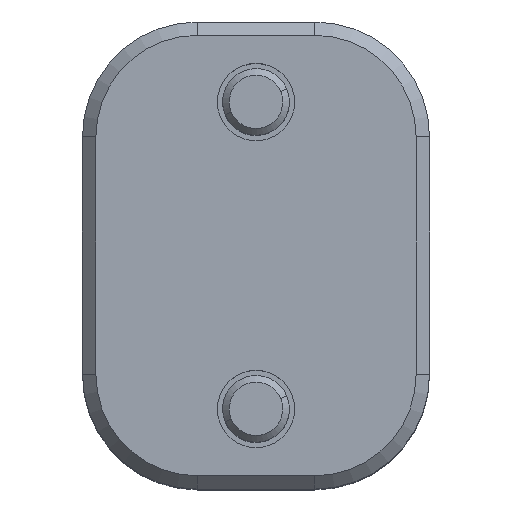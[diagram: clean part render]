
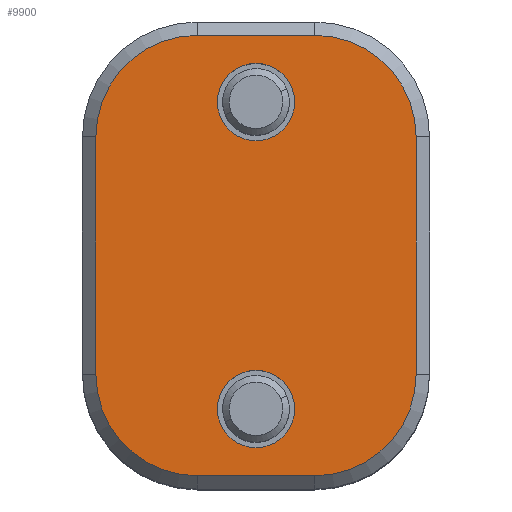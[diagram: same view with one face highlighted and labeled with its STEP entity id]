
A CAD part, top view. The second image highlights one B-rep face of the part: STEP entity #9900.
In plain terms, the highlighted planar face has unit normal (0, 0, 1).
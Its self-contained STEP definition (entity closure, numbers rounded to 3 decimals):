
#77 = ORIENTED_EDGE ( 'NONE', *, *, #4296, .T. ) ;
#110 = CARTESIAN_POINT ( 'NONE',  ( 4.4, 16.5, 15. ) ) ;
#122 = EDGE_LOOP ( 'NONE', ( #1868, #11519 ) ) ;
#213 = EDGE_CURVE ( 'NONE', #8051, #11638, #8648, .T. ) ;
#377 = DIRECTION ( 'NONE',  ( 0., 0., 1. ) ) ;
#816 = DIRECTION ( 'NONE',  ( 0., 0., 1. ) ) ;
#867 = VERTEX_POINT ( 'NONE', #10198 ) ;
#948 = ORIENTED_EDGE ( 'NONE', *, *, #213, .T. ) ;
#965 = CARTESIAN_POINT ( 'NONE',  ( 12., -17.5, 15. ) ) ;
#1757 = CARTESIAN_POINT ( 'NONE',  ( 0., 8.6, 15. ) ) ;
#1854 = CIRCLE ( 'NONE', #8111, 2.9 ) ;
#1868 = ORIENTED_EDGE ( 'NONE', *, *, #4483, .T. ) ;
#1983 = EDGE_CURVE ( 'NONE', #10479, #2769, #11390, .T. ) ;
#2074 = LINE ( 'NONE', #10593, #6638 ) ;
#2131 = AXIS2_PLACEMENT_3D ( 'NONE', #9026, #3216, #10985 ) ;
#2219 = CIRCLE ( 'NONE', #4018, 7.6 ) ;
#2274 = VERTEX_POINT ( 'NONE', #12109 ) ;
#2454 = AXIS2_PLACEMENT_3D ( 'NONE', #8600, #816, #3814 ) ;
#2489 = AXIS2_PLACEMENT_3D ( 'NONE', #4166, #377, #4252 ) ;
#2545 = ORIENTED_EDGE ( 'NONE', *, *, #1983, .T. ) ;
#2769 = VERTEX_POINT ( 'NONE', #8534 ) ;
#3216 = DIRECTION ( 'NONE',  ( 0., 0., -1. ) ) ;
#3452 = DIRECTION ( 'NONE',  ( 0., 1., 0. ) ) ;
#3486 = CIRCLE ( 'NONE', #10030, 2.9 ) ;
#3758 = AXIS2_PLACEMENT_3D ( 'NONE', #5896, #7827, #11580 ) ;
#3814 = DIRECTION ( 'NONE',  ( -1., 0., 0. ) ) ;
#3915 = DIRECTION ( 'NONE',  ( 0., 1., 0. ) ) ;
#4018 = AXIS2_PLACEMENT_3D ( 'NONE', #10957, #9035, #9134 ) ;
#4114 = ORIENTED_EDGE ( 'NONE', *, *, #12096, .T. ) ;
#4166 = CARTESIAN_POINT ( 'NONE',  ( -4.4, -8.9, 15. ) ) ;
#4252 = DIRECTION ( 'NONE',  ( -1., 0., 0. ) ) ;
#4296 = EDGE_CURVE ( 'NONE', #12242, #867, #11585, .T. ) ;
#4315 = CARTESIAN_POINT ( 'NONE',  ( 0., -11.5, 15. ) ) ;
#4388 = CIRCLE ( 'NONE', #2131, 2.9 ) ;
#4483 = EDGE_CURVE ( 'NONE', #9986, #7068, #4388, .T. ) ;
#4688 = DIRECTION ( 'NONE',  ( 0., 1., 0. ) ) ;
#4695 = ORIENTED_EDGE ( 'NONE', *, *, #8194, .T. ) ;
#4763 = DIRECTION ( 'NONE',  ( 0., 0., -1. ) ) ;
#4916 = ORIENTED_EDGE ( 'NONE', *, *, #8242, .T. ) ;
#5333 = ORIENTED_EDGE ( 'NONE', *, *, #6678, .T. ) ;
#5358 = DIRECTION ( 'NONE',  ( 0., 0., -1. ) ) ;
#5524 = CARTESIAN_POINT ( 'NONE',  ( -12., -8.9, 15. ) ) ;
#5581 = FACE_BOUND ( 'NONE', #122, .T. ) ;
#5896 = CARTESIAN_POINT ( 'NONE',  ( 4.4, -8.9, 15. ) ) ;
#6060 = CARTESIAN_POINT ( 'NONE',  ( 13., 16.5, 15. ) ) ;
#6287 = CARTESIAN_POINT ( 'NONE',  ( 0., -8.6, 15. ) ) ;
#6447 = PLANE ( 'NONE',  #12546 ) ;
#6565 = VECTOR ( 'NONE', #11439, 1000. ) ;
#6623 = CARTESIAN_POINT ( 'NONE',  ( 0., -11.5, 15. ) ) ;
#6638 = VECTOR ( 'NONE', #10641, 1000. ) ;
#6678 = EDGE_CURVE ( 'NONE', #2769, #12300, #8767, .T. ) ;
#6826 = VERTEX_POINT ( 'NONE', #9190 ) ;
#6839 = VERTEX_POINT ( 'NONE', #6287 ) ;
#6992 = EDGE_CURVE ( 'NONE', #6839, #2274, #3486, .T. ) ;
#7028 = ORIENTED_EDGE ( 'NONE', *, *, #8749, .T. ) ;
#7068 = VERTEX_POINT ( 'NONE', #1757 ) ;
#7168 = LINE ( 'NONE', #9624, #6565 ) ;
#7255 = ORIENTED_EDGE ( 'NONE', *, *, #6992, .T. ) ;
#7427 = CARTESIAN_POINT ( 'NONE',  ( 13., -17.5, 15. ) ) ;
#7550 = DIRECTION ( 'NONE',  ( -1., 0., 0. ) ) ;
#7827 = DIRECTION ( 'NONE',  ( 0., 0., 1. ) ) ;
#7856 = CIRCLE ( 'NONE', #2454, 7.6 ) ;
#7923 = DIRECTION ( 'NONE',  ( -1., 0., 0. ) ) ;
#8051 = VERTEX_POINT ( 'NONE', #5524 ) ;
#8111 = AXIS2_PLACEMENT_3D ( 'NONE', #4315, #5358, #3452 ) ;
#8194 = EDGE_CURVE ( 'NONE', #12300, #12242, #7856, .T. ) ;
#8242 = EDGE_CURVE ( 'NONE', #6826, #8051, #2074, .T. ) ;
#8395 = ORIENTED_EDGE ( 'NONE', *, *, #11802, .T. ) ;
#8516 = EDGE_LOOP ( 'NONE', ( #2545, #5333, #4695, #77, #7028, #4916, #948, #4114 ) ) ;
#8534 = CARTESIAN_POINT ( 'NONE',  ( 12., -8.9, 15. ) ) ;
#8600 = CARTESIAN_POINT ( 'NONE',  ( 4.4, 8.9, 15. ) ) ;
#8620 = CARTESIAN_POINT ( 'NONE',  ( 0., 14.4, 15. ) ) ;
#8628 = DIRECTION ( 'NONE',  ( 0., 0., -1. ) ) ;
#8648 = CIRCLE ( 'NONE', #2489, 7.6 ) ;
#8749 = EDGE_CURVE ( 'NONE', #867, #6826, #2219, .T. ) ;
#8767 = LINE ( 'NONE', #965, #9523 ) ;
#9016 = CARTESIAN_POINT ( 'NONE',  ( -4.4, -16.5, 15. ) ) ;
#9026 = CARTESIAN_POINT ( 'NONE',  ( 0., 11.5, 15. ) ) ;
#9035 = DIRECTION ( 'NONE',  ( 0., 0., 1. ) ) ;
#9134 = DIRECTION ( 'NONE',  ( -1., 0., 0. ) ) ;
#9190 = CARTESIAN_POINT ( 'NONE',  ( -12., 8.9, 15. ) ) ;
#9459 = DIRECTION ( 'NONE',  ( 0., 1., 0. ) ) ;
#9523 = VECTOR ( 'NONE', #3915, 1000. ) ;
#9624 = CARTESIAN_POINT ( 'NONE',  ( 13., -16.5, 15. ) ) ;
#9900 = ADVANCED_FACE ( 'NONE', ( #11031, #5581, #10130 ), #6447, .F. ) ;
#9986 = VERTEX_POINT ( 'NONE', #8620 ) ;
#10005 = CARTESIAN_POINT ( 'NONE',  ( 12., 8.9, 15. ) ) ;
#10030 = AXIS2_PLACEMENT_3D ( 'NONE', #6623, #8628, #4688 ) ;
#10130 = FACE_BOUND ( 'NONE', #12547, .T. ) ;
#10198 = CARTESIAN_POINT ( 'NONE',  ( -4.4, 16.5, 15. ) ) ;
#10317 = CARTESIAN_POINT ( 'NONE',  ( 0., 11.5, 15. ) ) ;
#10479 = VERTEX_POINT ( 'NONE', #12257 ) ;
#10593 = CARTESIAN_POINT ( 'NONE',  ( -12., -8.9, 15. ) ) ;
#10641 = DIRECTION ( 'NONE',  ( 0., -1., 0. ) ) ;
#10836 = CIRCLE ( 'NONE', #11763, 2.9 ) ;
#10957 = CARTESIAN_POINT ( 'NONE',  ( -4.4, 8.9, 15. ) ) ;
#10985 = DIRECTION ( 'NONE',  ( 0., 1., 0. ) ) ;
#11031 = FACE_OUTER_BOUND ( 'NONE', #8516, .T. ) ;
#11390 = CIRCLE ( 'NONE', #3758, 7.6 ) ;
#11405 = EDGE_CURVE ( 'NONE', #7068, #9986, #10836, .T. ) ;
#11439 = DIRECTION ( 'NONE',  ( 1., 0., 0. ) ) ;
#11519 = ORIENTED_EDGE ( 'NONE', *, *, #11405, .T. ) ;
#11580 = DIRECTION ( 'NONE',  ( -1., 0., 0. ) ) ;
#11585 = LINE ( 'NONE', #6060, #11887 ) ;
#11638 = VERTEX_POINT ( 'NONE', #9016 ) ;
#11763 = AXIS2_PLACEMENT_3D ( 'NONE', #10317, #12338, #9459 ) ;
#11802 = EDGE_CURVE ( 'NONE', #2274, #6839, #1854, .T. ) ;
#11887 = VECTOR ( 'NONE', #7923, 1000. ) ;
#12096 = EDGE_CURVE ( 'NONE', #11638, #10479, #7168, .T. ) ;
#12109 = CARTESIAN_POINT ( 'NONE',  ( 0., -14.4, 15. ) ) ;
#12242 = VERTEX_POINT ( 'NONE', #110 ) ;
#12257 = CARTESIAN_POINT ( 'NONE',  ( 4.4, -16.5, 15. ) ) ;
#12300 = VERTEX_POINT ( 'NONE', #10005 ) ;
#12338 = DIRECTION ( 'NONE',  ( 0., 0., -1. ) ) ;
#12546 = AXIS2_PLACEMENT_3D ( 'NONE', #7427, #4763, #7550 ) ;
#12547 = EDGE_LOOP ( 'NONE', ( #7255, #8395 ) ) ;
